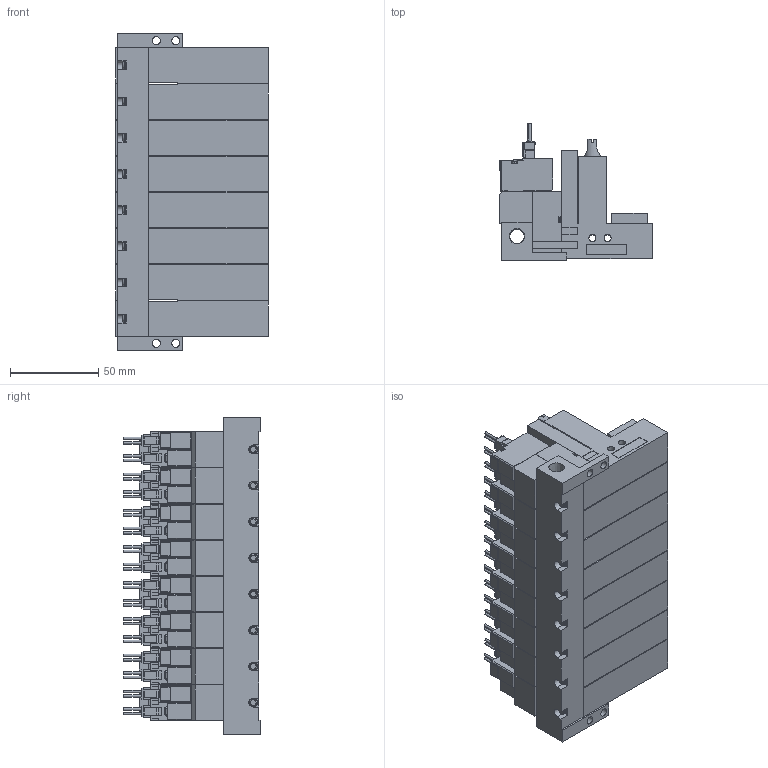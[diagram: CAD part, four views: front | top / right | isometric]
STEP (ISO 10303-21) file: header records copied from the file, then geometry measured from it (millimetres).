
FILE_DESCRIPTION(('STEP AP203'),'1');
FILE_NAME('ZL5ALR808.stp','2025-02-25T04:58:10',(' '),(' '),'Spatial InterOp 3D',' ',' ');
FILE_SCHEMA(('CONFIG_CONTROL_DESIGN'));
Length unit declared in the file: millimetre
Products named in the file (5): BMC22M※※※※ZL5ALR808; Solenoid valve A; Pressure sensor ZL; Unit L; Base MR80R
Assembly tree (25 placements, depth 2):
  BMC22M※※※※ZL5ALR808
    Solenoid valve A  x8
    Pressure sensor ZL  x8
    Unit L  x8
    Base MR80R
Bounding box: 86.6 x 77.45 x 179.5 mm (x, y, z)
Volume: 618401.4 mm3; surface area: 174720.3 mm2
Topology: 25 solids, 25 shells, 2789 faces, 7571 edges, 4984 vertices
Faces by surface type: plane 2398, cylinder 309, cone 58, torus 24
Full cylindrical faces by diameter (mm): 1.4 x32, 2.5 x8, 3 x32, 3.5 x32, 3.6 x8, 4 x16, 4.134 x8, 4.5 x4, 5.2 x8, 6 x8, 6.6 x8, 8.279 x1
Entity records: 14909 total; most frequent: CARTESIAN_POINT 2904, DIRECTION 2379, ORIENTED_EDGE 2278, EDGE_CURVE 1139, LINE 899, VECTOR 899, VERTEX_POINT 805, AXIS2_PLACEMENT_3D 740
